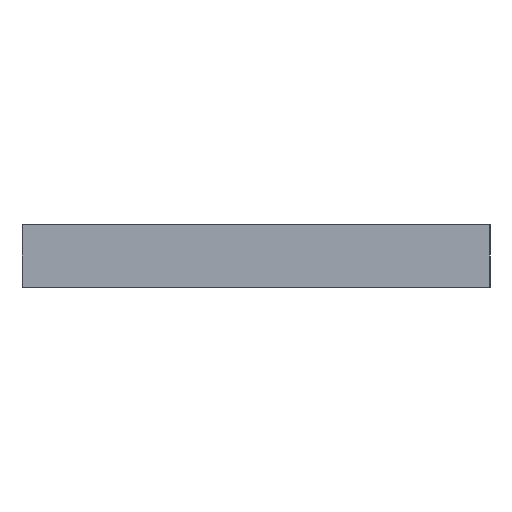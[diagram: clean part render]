
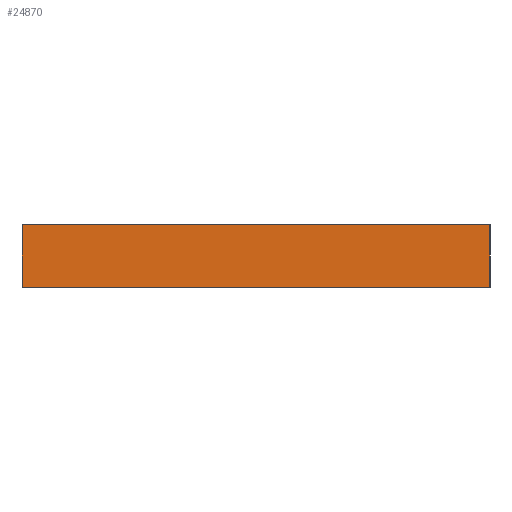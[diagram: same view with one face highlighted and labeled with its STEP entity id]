
A CAD part, left-side view. The second image highlights one B-rep face of the part: STEP entity #24870.
In plain terms, the highlighted planar face has unit normal (-1, 0, 0).
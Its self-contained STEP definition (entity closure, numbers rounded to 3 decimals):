
#2471=FACE_OUTER_BOUND('',#3725,.T.);
#3725=EDGE_LOOP('',(#22763,#22764,#22765,#22766));
#5652=LINE('',#39110,#8498);
#6570=LINE('',#41176,#9416);
#6575=LINE('',#41185,#9421);
#6576=LINE('',#41187,#9422);
#8498=VECTOR('',#31726,10.);
#9416=VECTOR('',#33868,10.);
#9421=VECTOR('',#33877,10.);
#9422=VECTOR('',#33880,10.);
#11291=VERTEX_POINT('',#39108);
#11292=VERTEX_POINT('',#39109);
#11828=VERTEX_POINT('',#41174);
#11830=VERTEX_POINT('',#41183);
#14424=EDGE_CURVE('',#11291,#11292,#5652,.T.);
#15473=EDGE_CURVE('',#11828,#11291,#6570,.T.);
#15478=EDGE_CURVE('',#11830,#11292,#6575,.T.);
#15479=EDGE_CURVE('',#11828,#11830,#6576,.T.);
#22763=ORIENTED_EDGE('',*,*,#15479,.T.);
#22764=ORIENTED_EDGE('',*,*,#15478,.T.);
#22765=ORIENTED_EDGE('',*,*,#14424,.F.);
#22766=ORIENTED_EDGE('',*,*,#15473,.F.);
#23623=PLANE('',#26934);
#24870=ADVANCED_FACE('',(#2471),#23623,.T.);
#26934=AXIS2_PLACEMENT_3D('',#41186,#33878,#33879);
#31726=DIRECTION('',(0.,-1.,0.));
#33868=DIRECTION('',(0.,0.,1.));
#33877=DIRECTION('',(0.,0.,1.));
#33878=DIRECTION('center_axis',(-1.,0.,0.));
#33879=DIRECTION('ref_axis',(0.,-1.,0.));
#33880=DIRECTION('',(0.,-1.,0.));
#39108=CARTESIAN_POINT('',(0.,30.,4.));
#39109=CARTESIAN_POINT('',(0.,0.,4.));
#39110=CARTESIAN_POINT('',(0.,30.,4.));
#41174=CARTESIAN_POINT('',(0.,30.,0.));
#41176=CARTESIAN_POINT('',(0.,30.,0.));
#41183=CARTESIAN_POINT('',(0.,0.,0.));
#41185=CARTESIAN_POINT('',(0.,0.,0.));
#41186=CARTESIAN_POINT('Origin',(0.,30.,0.));
#41187=CARTESIAN_POINT('',(0.,30.,0.));
